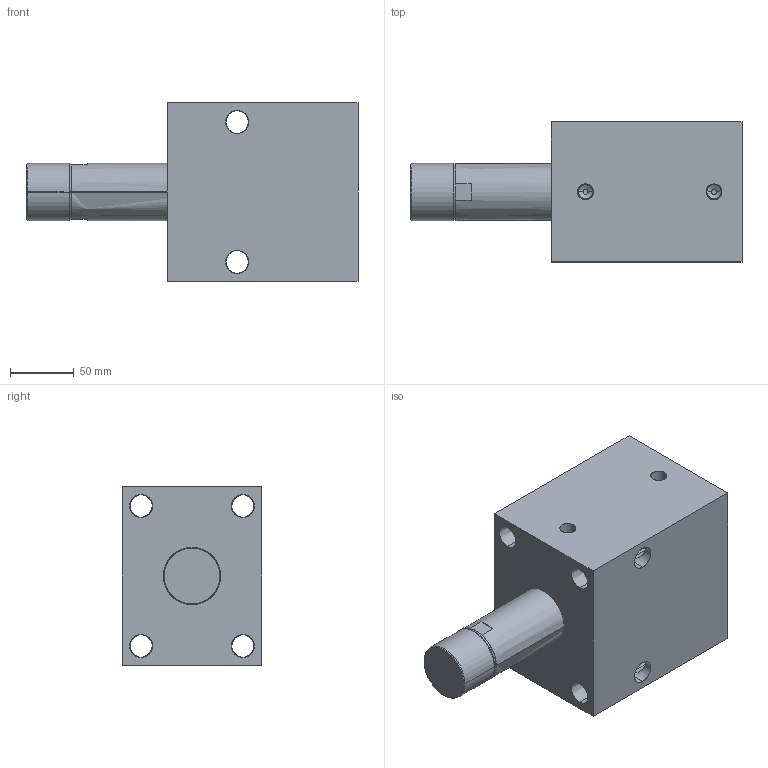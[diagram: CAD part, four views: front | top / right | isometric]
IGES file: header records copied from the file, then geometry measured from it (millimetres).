
Start section: SolidWorks IGES file using analytic representation for surfaces
Global section: file name: C:\Documents and Settings\rajib\Desktop\Rajib\BLOCK CYLINDER HYDRAULIC\0701-0704\IGS 0701-0708\0705.IGS; native system: SolidWorks 2007; preprocessor: SolidWorks 2007; author: rajib; date: 110121.160910; units: millimetre
Bounding box: 261 x 110 x 140 mm (x, y, z)
Surface area: 170501.6 mm2 (no closed solid volume)
Topology: 0 solids, 0 shells, 76 faces, 1856 edges, 1856 vertices
Faces by surface type: revolution 54, bspline 22
